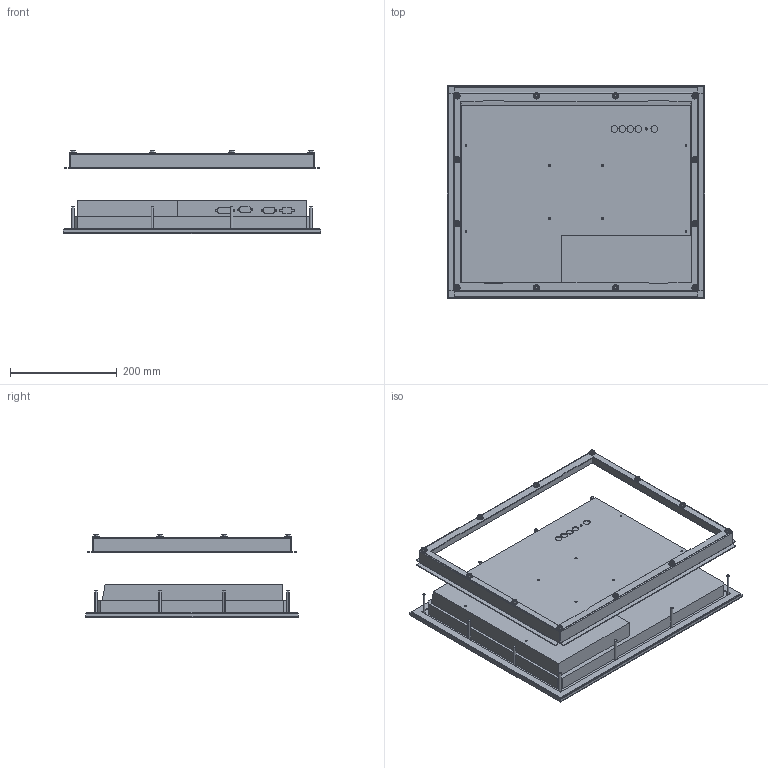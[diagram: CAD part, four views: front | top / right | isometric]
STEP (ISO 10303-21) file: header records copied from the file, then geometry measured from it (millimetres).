
FILE_DESCRIPTION (( 'STEP AP214' ), '1' );
FILE_NAME ('20 inch Panel Mount Monitor, HIS-ML20-xxxC.STEP', '2017-06-23T19:26:05', ( '' ), ( '' ), 'SwSTEP 2.0', 'SolidWorks 2017', '' );
FILE_SCHEMA (( 'AUTOMOTIVE_DESIGN' ));
Length unit declared in the file: millimetre
Products named in the file (4): Monitor, 20C; 20 inch Panel Mount Monitor, HIS-ML20-xxxC; M5 Nut, 30008_M5 Nut - 30008; Collar, 10740
Assembly tree (14 placements, depth 2):
  20 inch Panel Mount Monitor, HIS-ML20-xxxC
    Monitor, 20C
    Collar, 10740
    M5 Nut, 30008_M5 Nut - 30008  x12
Bounding box: 482.6 x 398.78 x 155.93 mm (x, y, z)
Volume: 8783322.2 mm3; surface area: 1237519.7 mm2
Topology: 16 solids, 16 shells, 724 faces, 1641 edges, 978 vertices
Faces by surface type: plane 281, cylinder 179, cone 160, bspline 80, torus 24
Entity records: 11279 total; most frequent: CARTESIAN_POINT 2490, DIRECTION 1813, ORIENTED_EDGE 1710, EDGE_CURVE 855, AXIS2_PLACEMENT_3D 635, VECTOR 543, LINE 543, VERTEX_POINT 538
